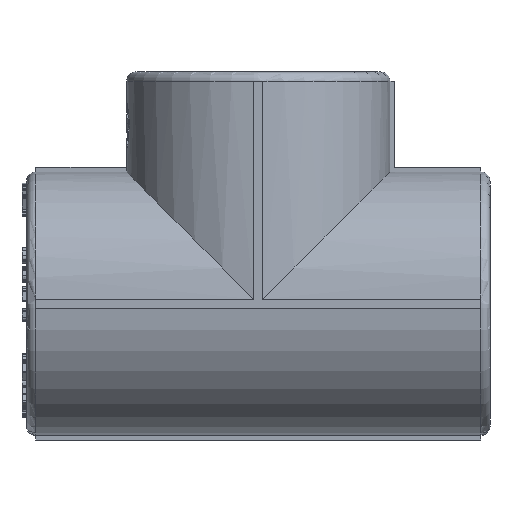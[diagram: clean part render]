
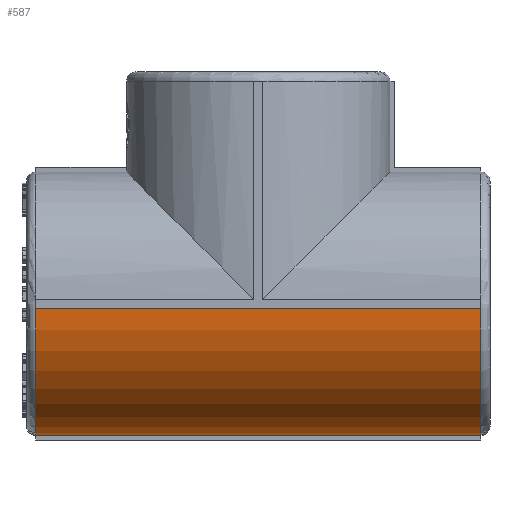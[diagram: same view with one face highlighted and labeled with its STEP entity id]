
A CAD part, left-side view. The second image highlights one B-rep face of the part: STEP entity #587.
In plain terms, the highlighted cylindrical face has radius 14.5 mm (diameter 29 mm), a partial arc.
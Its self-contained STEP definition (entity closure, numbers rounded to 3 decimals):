
#587=ADVANCED_FACE('',(#4586),#4588,.T.);
#4586=FACE_BOUND('',#4587,.T.);
#4587=EDGE_LOOP('',(#11925,#11926,#11927,#11928));
#4588=CYLINDRICAL_SURFACE('',#4589,14.5);
#4589=AXIS2_PLACEMENT_3D('',#4590,#4591,#4592);
#4590=CARTESIAN_POINT('',(0.,-25.5,0.));
#4591=DIRECTION('',(0.,1.,0.));
#4592=DIRECTION('',(-1.,0.,0.));
#11925=ORIENTED_EDGE('',*,*,#17155,.F.);
#11926=ORIENTED_EDGE('',*,*,#17156,.T.);
#11927=ORIENTED_EDGE('',*,*,#17157,.F.);
#11928=ORIENTED_EDGE('',*,*,#17126,.F.);
#17126=EDGE_CURVE('',#21038,#21040,#21041,.T.);
#17155=EDGE_CURVE('',#21089,#21038,#21090,.T.);
#17156=EDGE_CURVE('',#21089,#21091,#21092,.T.);
#17157=EDGE_CURVE('',#21040,#21091,#21093,.F.);
#21038=VERTEX_POINT('',#28877);
#21040=VERTEX_POINT('',#28882);
#21041=CIRCLE('',#28883,14.5);
#21089=VERTEX_POINT('',#28999);
#21090=LINE('',#29000,#29001);
#21091=VERTEX_POINT('',#29003);
#21092=CIRCLE('',#29004,14.5);
#21093=LINE('',#29008,#29009);
#28877=CARTESIAN_POINT('',(-0.5,24.5,-14.491));
#28882=CARTESIAN_POINT('',(-14.491,24.5,-0.5));
#28883=AXIS2_PLACEMENT_3D('',#28884,#28885,#28886);
#28884=CARTESIAN_POINT('',(0.,24.5,0.));
#28885=DIRECTION('',(0.,1.,0.));
#28886=DIRECTION('',(-0.034,0.,-0.999));
#28999=CARTESIAN_POINT('',(-0.5,-24.5,-14.491));
#29000=CARTESIAN_POINT('',(-0.5,-24.5,-14.491));
#29001=VECTOR('',#29002,1.);
#29002=DIRECTION('',(0.,1.,0.));
#29003=CARTESIAN_POINT('',(-14.491,-24.5,-0.5));
#29004=AXIS2_PLACEMENT_3D('',#29005,#29006,#29007);
#29005=CARTESIAN_POINT('',(0.,-24.5,0.));
#29006=DIRECTION('',(0.,1.,0.));
#29007=DIRECTION('',(-0.034,0.,-0.999));
#29008=CARTESIAN_POINT('',(-14.491,-24.5,-0.5));
#29009=VECTOR('',#29010,1.);
#29010=DIRECTION('',(0.,1.,0.));
